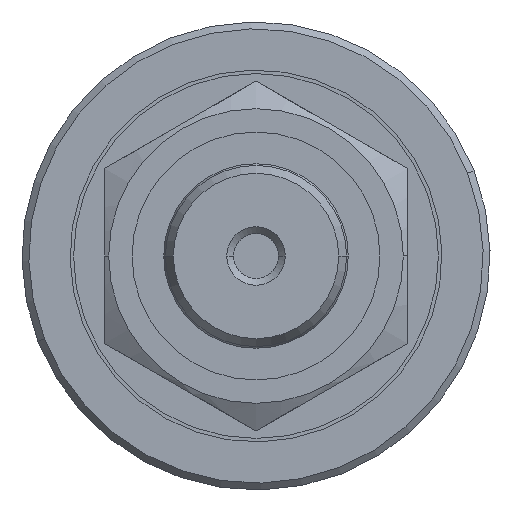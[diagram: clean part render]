
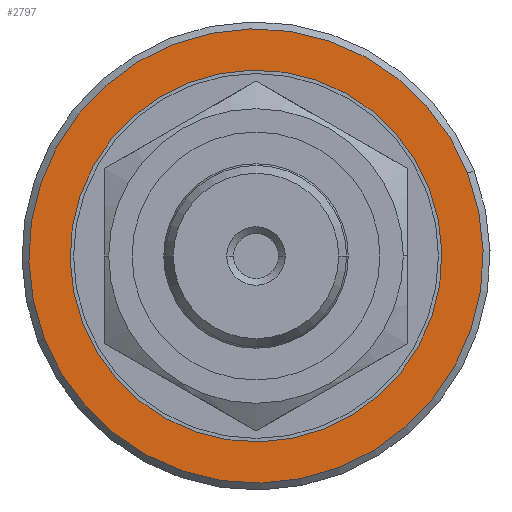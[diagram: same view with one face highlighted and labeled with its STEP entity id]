
A CAD part, front view. The second image highlights one B-rep face of the part: STEP entity #2797.
In plain terms, the highlighted planar face has unit normal (0, -1, 0) as drawn and (0, 0, -1) by its records, which use the part's own axes.
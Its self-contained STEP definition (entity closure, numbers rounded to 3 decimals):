
#746 = DIRECTION ( 'NONE',  ( 1., 0., 0. ) ) ;
#747 = DIRECTION ( 'NONE',  ( 0., 0., 1. ) ) ;
#748 = CARTESIAN_POINT ( 'NONE',  ( 0., 0., 0. ) ) ;
#749 = AXIS2_PLACEMENT_3D ( 'NONE', #748, #747, #746 ) ;
#750 = PLANE ( 'NONE',  #749 ) ;
#752 = FACE_BOUND ( 'NONE', #2978, .T. ) ;
#753 = FACE_OUTER_BOUND ( 'NONE', #2735, .T. ) ;
#758 = CARTESIAN_POINT ( 'NONE',  ( -13.5, 0., 0. ) ) ;
#759 = DIRECTION ( 'NONE',  ( -1., 0., 0. ) ) ;
#760 = DIRECTION ( 'NONE',  ( 0., 0., -1. ) ) ;
#761 = CARTESIAN_POINT ( 'NONE',  ( 0., 0., 0. ) ) ;
#762 = AXIS2_PLACEMENT_3D ( 'NONE', #761, #760, #759 ) ;
#763 = CIRCLE ( 'NONE', #762, 13.5 ) ;
#764 = CARTESIAN_POINT ( 'NONE',  ( 13.5, 0., 0. ) ) ;
#803 = DIRECTION ( 'NONE',  ( 1., 0., 0. ) ) ;
#804 = DIRECTION ( 'NONE',  ( 0., 0., -1. ) ) ;
#805 = CARTESIAN_POINT ( 'NONE',  ( 0., 0., 0. ) ) ;
#806 = AXIS2_PLACEMENT_3D ( 'NONE', #805, #804, #803 ) ;
#807 = CIRCLE ( 'NONE', #806, 16.5 ) ;
#861 = CARTESIAN_POINT ( 'NONE',  ( -16.5, 0., 0. ) ) ;
#862 = DIRECTION ( 'NONE',  ( 1., 0., 0. ) ) ;
#863 = DIRECTION ( 'NONE',  ( 0., 0., -1. ) ) ;
#864 = CARTESIAN_POINT ( 'NONE',  ( 0., 0., 0. ) ) ;
#865 = AXIS2_PLACEMENT_3D ( 'NONE', #864, #863, #862 ) ;
#866 = CIRCLE ( 'NONE', #865, 16.5 ) ;
#888 = CARTESIAN_POINT ( 'NONE',  ( 16.5, 0., 0. ) ) ;
#1019 = DIRECTION ( 'NONE',  ( -1., 0., 0. ) ) ;
#1020 = DIRECTION ( 'NONE',  ( 0., 0., -1. ) ) ;
#1021 = CARTESIAN_POINT ( 'NONE',  ( 0., 0., 0. ) ) ;
#1022 = AXIS2_PLACEMENT_3D ( 'NONE', #1021, #1020, #1019 ) ;
#1023 = CIRCLE ( 'NONE', #1022, 13.5 ) ;
#2735 = EDGE_LOOP ( 'NONE', ( #2798, #2929 ) ) ;
#2790 = VERTEX_POINT ( 'NONE', #764 ) ;
#2792 = EDGE_CURVE ( 'NONE', #2790, #2793, #763, .T. ) ;
#2793 = VERTEX_POINT ( 'NONE', #758 ) ;
#2797 = ADVANCED_FACE ( 'NONE', ( #753, #752 ), #750, .F. ) ;
#2798 = ORIENTED_EDGE ( 'NONE', *, *, #2799, .T. ) ;
#2799 = EDGE_CURVE ( 'NONE', #2856, #2839, #807, .T. ) ;
#2838 = EDGE_CURVE ( 'NONE', #2839, #2856, #866, .T. ) ;
#2839 = VERTEX_POINT ( 'NONE', #861 ) ;
#2856 = VERTEX_POINT ( 'NONE', #888 ) ;
#2921 = EDGE_CURVE ( 'NONE', #2793, #2790, #1023, .T. ) ;
#2923 = ORIENTED_EDGE ( 'NONE', *, *, #2921, .F. ) ;
#2924 = ORIENTED_EDGE ( 'NONE', *, *, #2792, .F. ) ;
#2929 = ORIENTED_EDGE ( 'NONE', *, *, #2838, .T. ) ;
#2978 = EDGE_LOOP ( 'NONE', ( #2923, #2924 ) ) ;
